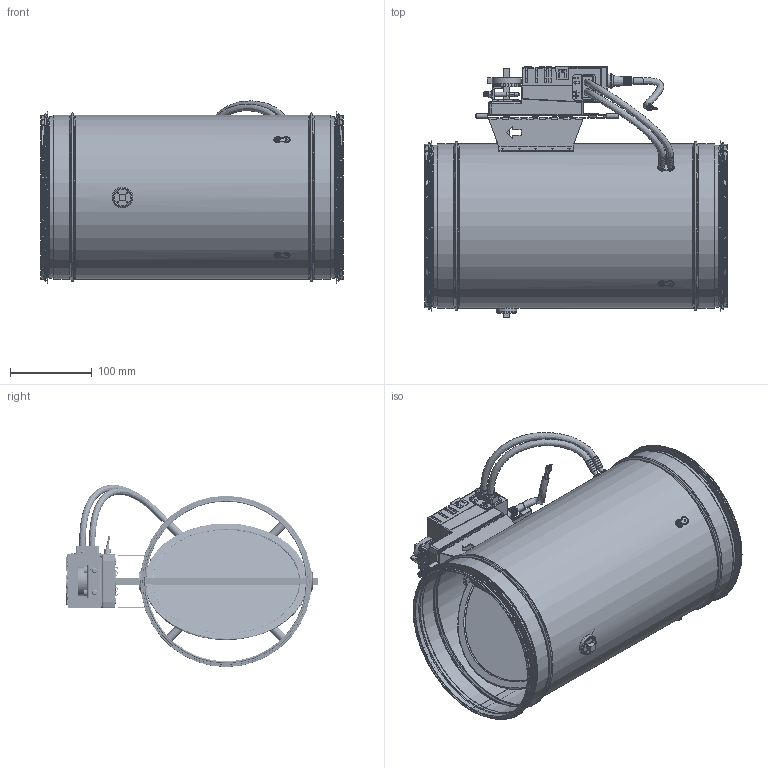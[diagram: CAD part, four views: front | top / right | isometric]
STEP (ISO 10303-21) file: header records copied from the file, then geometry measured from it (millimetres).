
FILE_DESCRIPTION (( 'STEP AP214' ), '1' );
FILE_NAME ('VAV-R200.STEP', '2025-03-10T13:26:01', ( '' ), ( '' ), 'SwSTEP 2.0', 'SolidWorks 2025', '' );
FILE_SCHEMA (( 'AUTOMOTIVE_DESIGN' ));
Length unit declared in the file: millimetre
Products named in the file (19): CROSS_PIECE; Dichtung_innenxxx_x_x; LMV-D3-MP; CROSS_DN200; VSRV_Zapfen; BELIMO_MOTOR BRACKET_DN150-200; CROSS_WING200; KLAPPE200; Abschlusskappexxx_x_x; Label VAVR200; Dichtungen; CROSS_PLUG; LDE_DN200; VAV-R200; Dichtung_Vierkantxxx_x_x; BLECHSCHRAUBE; DB_DN200; Teil2^VAV-R200; Sicherungsscheibexxx_x_x
Assembly tree (27 placements, depth 3):
  VAV-R200
    DB_DN200
    BELIMO_MOTOR BRACKET_DN150-200
    CROSS_DN200
      CROSS_PIECE
      CROSS_WING200  x4
      CROSS_PLUG  x3
      VSRV_Zapfen
    LDE_DN200  x2
    BLECHSCHRAUBE  x3
    LMV-D3-MP
    Dichtungen  x2
      Abschlusskappexxx_x_x
      Dichtung_innenxxx_x_x
      Dichtung_Vierkantxxx_x_x
      Sicherungsscheibexxx_x_x
    KLAPPE200
    Label VAVR200
    Teil2^VAV-R200
Bounding box: 370.34 x 307.5 x 223.06 mm (x, y, z)
Volume: 277345.2 mm3; surface area: 816394.7 mm2
Topology: 31 solids, 50 shells, 6711 faces, 18117 edges, 11891 vertices
Faces by surface type: plane 2948, bspline 2472, cylinder 1035, torus 135, cone 91, sphere 30
Full cylindrical faces by diameter (mm): 0.5 x2, 1 x4, 1.911 x6, 2 x17, 2.5 x6, 3.5 x3, 4 x2, 5 x2, 5.5 x3, 6 x27, 7.5 x2, 8 x25, 11 x1, 16 x2, 20 x2, 21 x2, 21.422 x2, 23.5 x2, 25 x2, 195.845 x2, 196.74 x2, 196.745 x2, 197.4 x2, 198.3 x2, 199.14 x4, 200 x3, 200.9 x3, 209.74 x2
Entity records: 354802 total; most frequent: CARTESIAN_POINT 159758, ORIENTED_EDGE 34029, EDGE_CURVE 17036, DIRECTION 15758, VERTEX_POINT 11325, B_SPLINE_CURVE_WITH_KNOTS 11085, EDGE_LOOP 7148, FACE_OUTER_BOUND 6534
